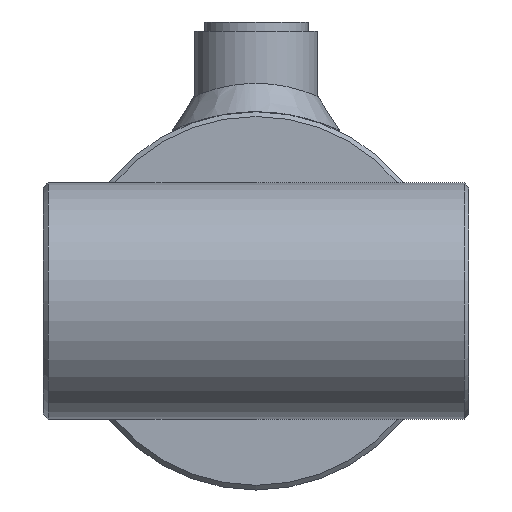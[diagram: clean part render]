
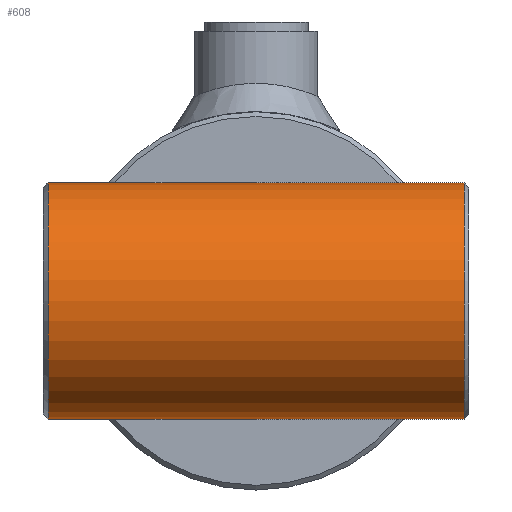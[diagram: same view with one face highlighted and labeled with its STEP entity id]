
A CAD part, left-side view. The second image highlights one B-rep face of the part: STEP entity #608.
In plain terms, the highlighted cylindrical face has radius 25 mm (diameter 50 mm), a full revolution.
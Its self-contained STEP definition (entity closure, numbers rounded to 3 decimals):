
#608 = ADVANCED_FACE( '', ( #1124, #1125 ), #1126, .T. );
#1124 = FACE_OUTER_BOUND( '', #2114, .T. );
#1125 = FACE_OUTER_BOUND( '', #2115, .T. );
#1126 = CYLINDRICAL_SURFACE( '', #2116, 25. );
#2114 = EDGE_LOOP( '', ( #5335 ) );
#2115 = EDGE_LOOP( '', ( #5336 ) );
#2116 = AXIS2_PLACEMENT_3D( '', #5337, #5338, #5339 );
#5335 = ORIENTED_EDGE( '', *, *, #6387, .T. );
#5336 = ORIENTED_EDGE( '', *, *, #6388, .T. );
#5337 = CARTESIAN_POINT( '', ( 0., -45., 0. ) );
#5338 = DIRECTION( '', ( 0., -1., 0. ) );
#5339 = DIRECTION( '', ( 0., 0., 1. ) );
#6387 = EDGE_CURVE( '', #6939, #6939, #6940, .F. );
#6388 = EDGE_CURVE( '', #6941, #6941, #6942, .T. );
#6939 = VERTEX_POINT( '', #7601 );
#6940 = CIRCLE( '', #7602, 25. );
#6941 = VERTEX_POINT( '', #7603 );
#6942 = CIRCLE( '', #7604, 25. );
#7601 = CARTESIAN_POINT( '', ( 0., 44., 25. ) );
#7602 = AXIS2_PLACEMENT_3D( '', #9114, #9115, #9116 );
#7603 = CARTESIAN_POINT( '', ( 0., -44., 25. ) );
#7604 = AXIS2_PLACEMENT_3D( '', #9117, #9118, #9119 );
#9114 = CARTESIAN_POINT( '', ( 0., 44., 0. ) );
#9115 = DIRECTION( '', ( 0., 1., 0. ) );
#9116 = DIRECTION( '', ( 0., 0., 1. ) );
#9117 = CARTESIAN_POINT( '', ( 0., -44., 0. ) );
#9118 = DIRECTION( '', ( 0., 1., 0. ) );
#9119 = DIRECTION( '', ( 0., 0., 1. ) );
